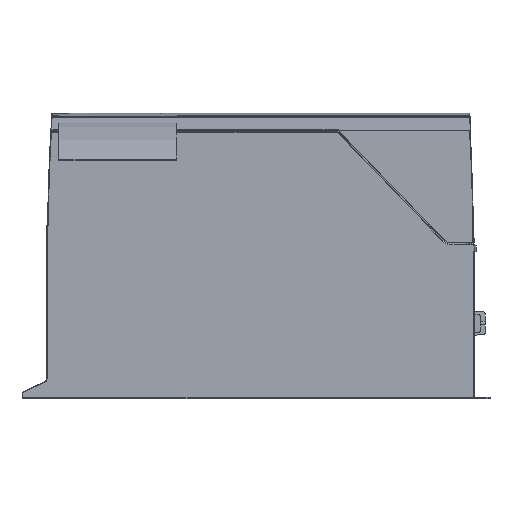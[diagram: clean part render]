
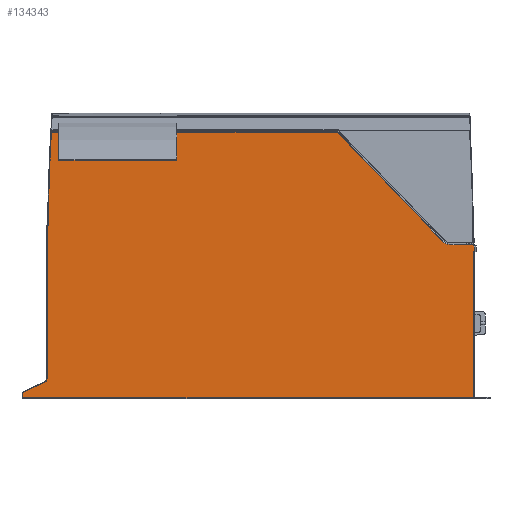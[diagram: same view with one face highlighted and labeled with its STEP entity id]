
A CAD part, left-side view. The second image highlights one B-rep face of the part: STEP entity #134343.
In plain terms, the highlighted planar face has unit normal (-1, 0, 0).
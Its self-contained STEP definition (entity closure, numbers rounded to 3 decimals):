
#29473=CARTESIAN_POINT('',(-51.,36.839,
-237.519));
#30572=CARTESIAN_POINT('',(-51.,11.133,
-67.563));
#30582=CARTESIAN_POINT('',(-51.,10.841,
-66.869));
#30623=DIRECTION('',(0.,1.,0.));
#30624=VECTOR('',#30623,290.845);
#30625=CARTESIAN_POINT('',(-51.,-283.23,27.343));
#30626=LINE('',#30625,#30624);
#30689=DIRECTION('',(0.,1.,0.));
#30690=VECTOR('',#30689,23.078);
#30691=CARTESIAN_POINT('',(-51.,-421.843,-87.016));
#30692=LINE('',#30691,#30690);
#30711=CARTESIAN_POINT('',(-51.,-421.843,-87.016));
#30730=CARTESIAN_POINT('',(-51.,-421.843,-88.287));
#30732=DIRECTION('',(0.,0.,1.));
#30733=VECTOR('',#30732,1.271);
#30734=CARTESIAN_POINT('',(-51.,-421.843,-88.287));
#30735=LINE('',#30734,#30733);
#30740=DIRECTION('',(0.,1.,0.));
#30741=VECTOR('',#30740,0.771);
#30742=CARTESIAN_POINT('',(-51.,-422.613,-88.287));
#30743=LINE('',#30742,#30741);
#30769=CARTESIAN_POINT('',(-51.,-422.613,
-94.113));
#30771=DIRECTION('',(0.,0.,1.));
#30772=VECTOR('',#30771,5.825);
#30773=CARTESIAN_POINT('',(-51.,-422.613,
-94.113));
#30774=LINE('',#30773,#30772);
#30792=DIRECTION('',(0.,-1.,0.));
#30793=VECTOR('',#30792,0.772);
#30794=CARTESIAN_POINT('',(-51.,-421.841,
-94.113));
#30795=LINE('',#30794,#30793);
#49955=CARTESIAN_POINT('',(-51.,-421.842,
-242.841));
#49976=DIRECTION('',(0.,-1.,0.));
#49977=VECTOR('',#49976,458.678);
#49978=CARTESIAN_POINT('',(-51.,36.837,
-242.835));
#49979=LINE('',#49978,#49977);
#55242=DIRECTION('',(0.,0.,1.));
#55243=VECTOR('',#55242,5.316);
#55244=CARTESIAN_POINT('',(-51.,36.837,
-242.835));
#55245=LINE('',#55244,#55243);
#55246=DIRECTION('',(0.,-0.906,0.423));
#55247=VECTOR('',#55246,23.974);
#55248=CARTESIAN_POINT('',(-51.,36.839,
-237.519));
#55249=LINE('',#55248,#55247);
#55250=CARTESIAN_POINT('',(-51.,17.5,-222.257));
#55251=DIRECTION('',(-1.,0.,0.));
#55252=DIRECTION('',(0.,-0.421,-0.907));
#55253=AXIS2_PLACEMENT_3D('',#55250,#55251,#55252);
#55255=DIRECTION('',(0.,-0.707,0.707));
#55256=VECTOR('',#55255,1.003);
#55257=CARTESIAN_POINT('',(-51.,11.843,-68.272));
#55258=LINE('',#55257,#55256);
#55259=CARTESIAN_POINT('',(-51.,11.133,
-67.563));
#55260=CARTESIAN_POINT('',(-51.,11.071,
-67.501));
#55261=CARTESIAN_POINT('',(-51.,10.968,
-67.366));
#55262=CARTESIAN_POINT('',(-51.,10.866,
-67.125));
#55263=CARTESIAN_POINT('',(-51.,10.842,
-66.957));
#55264=CARTESIAN_POINT('',(-51.,10.841,
-66.869));
#55266=CARTESIAN_POINT('',(-51.,-2188.322,-95.));
#55267=DIRECTION('',(1.,0.,0.));
#55268=DIRECTION('',(0.,1.,0.013));
#55269=AXIS2_PLACEMENT_3D('',#55266,#55267,#55268);
#55271=DIRECTION('',(0.,-0.695,-0.719));
#55272=VECTOR('',#55271,153.876);
#55273=CARTESIAN_POINT('',(-51.,-283.23,27.343));
#55274=LINE('',#55273,#55272);
#55275=CARTESIAN_POINT('',(-51.,-398.765,-75.));
#55276=DIRECTION('',(-1.,0.,0.));
#55277=DIRECTION('',(0.,0.719,-0.695));
#55278=AXIS2_PLACEMENT_3D('',#55275,#55276,#55277);
#55284=DIRECTION('',(0.,0.,1.));
#55285=VECTOR('',#55284,148.728);
#55286=CARTESIAN_POINT('',(-51.,-421.842,
-242.841));
#55287=LINE('',#55286,#55285);
#55288=CARTESIAN_POINT('',(-51.,-421.841,
-94.113));
#55304=CARTESIAN_POINT('',(-51.,11.843,-68.272));
#55306=DIRECTION('',(0.,0.,-1.));
#55307=VECTOR('',#55306,153.985);
#55308=CARTESIAN_POINT('',(-51.,11.843,-68.272));
#55309=LINE('',#55308,#55307);
#85035=VERTEX_POINT('',#30769);
#85036=CARTESIAN_POINT('',(-51.,-422.613,-88.287));
#85037=VERTEX_POINT('',#85036);
#85038=VERTEX_POINT('',#55288);
#85039=VERTEX_POINT('',#49955);
#85046=CARTESIAN_POINT('',(-51.,36.843,
-242.839));
#85047=VERTEX_POINT('',#85046);
#85656=VERTEX_POINT('',#29473);
#85657=CARTESIAN_POINT('',(-51.,15.108,
-227.386));
#85658=VERTEX_POINT('',#85657);
#85659=CARTESIAN_POINT('',(-51.,11.843,-222.257));
#85660=VERTEX_POINT('',#85659);
#85661=VERTEX_POINT('',#55304);
#85662=VERTEX_POINT('',#30572);
#85664=VERTEX_POINT('',#30582);
#85713=CARTESIAN_POINT('',(-51.,-283.23,27.343));
#85714=VERTEX_POINT('',#85713);
#85717=CARTESIAN_POINT('',(-51.,-390.121,-83.347));
#85718=VERTEX_POINT('',#85717);
#85721=CARTESIAN_POINT('',(-51.,-398.765,-87.016));
#85722=VERTEX_POINT('',#85721);
#85725=VERTEX_POINT('',#30711);
#85730=VERTEX_POINT('',#30730);
#85735=CARTESIAN_POINT('',(-51.,7.615,27.343));
#85736=VERTEX_POINT('',#85735);
#134316=CARTESIAN_POINT('',(-51.,12.5,-242.));
#134317=DIRECTION('',(-1.,0.,0.));
#134318=DIRECTION('',(0.,0.,1.));
#134319=AXIS2_PLACEMENT_3D('',#134316,#134317,#134318);
#134320=PLANE('',#134319);
#134321=ORIENTED_EDGE('',*,*,#98566,.F.);
#134322=ORIENTED_EDGE('',*,*,#98595,.F.);
#134324=ORIENTED_EDGE('',*,*,#134323,.F.);
#134325=ORIENTED_EDGE('',*,*,#125016,.F.);
#134326=ORIENTED_EDGE('',*,*,#134303,.T.);
#134327=ORIENTED_EDGE('',*,*,#96772,.T.);
#134328=ORIENTED_EDGE('',*,*,#96794,.T.);
#134330=ORIENTED_EDGE('',*,*,#134329,.F.);
#134332=ORIENTED_EDGE('',*,*,#134331,.T.);
#134333=ORIENTED_EDGE('',*,*,#98158,.T.);
#134334=ORIENTED_EDGE('',*,*,#98180,.T.);
#134335=ORIENTED_EDGE('',*,*,#98261,.F.);
#134336=ORIENTED_EDGE('',*,*,#98305,.T.);
#134337=ORIENTED_EDGE('',*,*,#98388,.T.);
#134338=ORIENTED_EDGE('',*,*,#98410,.F.);
#134339=ORIENTED_EDGE('',*,*,#98492,.F.);
#134340=ORIENTED_EDGE('',*,*,#98532,.F.);
#134341=EDGE_LOOP('',(#134321,#134322,#134324,#134325,#134326,#134327,#134328,
#134330,#134332,#134333,#134334,#134335,#134336,#134337,#134338,#134339,
#134340));
#134342=FACE_OUTER_BOUND('',#134341,.F.);
#55254=CIRCLE('',#55253,5.657);
#55265=B_SPLINE_CURVE_WITH_KNOTS('',3,(#55259,#55260,#55261,#55262,#55263,
#55264),.UNSPECIFIED.,.F.,.F.,(4,1,1,4),(0.,0.333,
0.667,1.),.UNSPECIFIED.);
#55270=CIRCLE('',#55269,2199.343);
#55279=CIRCLE('',#55278,12.016);
#96772=EDGE_CURVE('',#85656,#85658,#55249,.T.);
#96794=EDGE_CURVE('',#85658,#85660,#55254,.T.);
#98158=EDGE_CURVE('',#85662,#85664,#55265,.T.);
#98180=EDGE_CURVE('',#85664,#85736,#55270,.T.);
#98261=EDGE_CURVE('',#85714,#85736,#30626,.T.);
#98305=EDGE_CURVE('',#85714,#85718,#55274,.T.);
#98388=EDGE_CURVE('',#85718,#85722,#55279,.T.);
#98410=EDGE_CURVE('',#85725,#85722,#30692,.T.);
#98492=EDGE_CURVE('',#85730,#85725,#30735,.T.);
#98532=EDGE_CURVE('',#85037,#85730,#30743,.T.);
#98566=EDGE_CURVE('',#85035,#85037,#30774,.T.);
#98595=EDGE_CURVE('',#85038,#85035,#30795,.T.);
#125016=EDGE_CURVE('',#85047,#85039,#49979,.T.);
#134303=EDGE_CURVE('',#85047,#85656,#55245,.T.);
#134323=EDGE_CURVE('',#85039,#85038,#55287,.T.);
#134329=EDGE_CURVE('',#85661,#85660,#55309,.T.);
#134331=EDGE_CURVE('',#85661,#85662,#55258,.T.);
#134343=ADVANCED_FACE('',(#134342),#134320,.T.);
